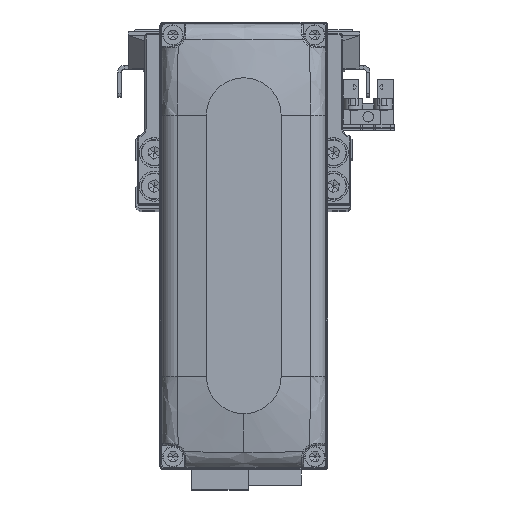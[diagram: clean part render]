
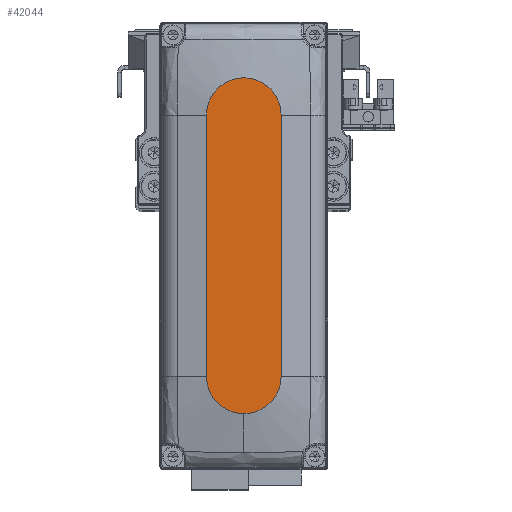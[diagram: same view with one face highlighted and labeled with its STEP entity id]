
A CAD part, top view. The second image highlights one B-rep face of the part: STEP entity #42044.
In plain terms, the highlighted planar face has unit normal (0, 0, 1).
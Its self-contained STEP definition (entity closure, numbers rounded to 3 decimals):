
#175 = PLANE ( 'NONE',  #27148 ) ;
#681 = ORIENTED_EDGE ( 'NONE', *, *, #20208, .T. ) ;
#1229 = CARTESIAN_POINT ( 'NONE',  ( -35., 10., 28. ) ) ;
#1949 = CARTESIAN_POINT ( 'NONE',  ( -35., -10., 28. ) ) ;
#2280 = CIRCLE ( 'NONE', #26103, 10. ) ;
#5046 = DIRECTION ( 'NONE',  ( 1., 0., 0. ) ) ;
#5385 = VERTEX_POINT ( 'NONE', #14078 ) ;
#5935 = DIRECTION ( 'NONE',  ( 0., 0., 1. ) ) ;
#6206 = DIRECTION ( 'NONE',  ( -1., 0., 0. ) ) ;
#7995 = ORIENTED_EDGE ( 'NONE', *, *, #14994, .T. ) ;
#8710 = DIRECTION ( 'NONE',  ( 0., 0., 1. ) ) ;
#8984 = VERTEX_POINT ( 'NONE', #11856 ) ;
#9556 = CIRCLE ( 'NONE', #33384, 10. ) ;
#9577 = EDGE_CURVE ( 'NONE', #8984, #15792, #22395, .T. ) ;
#11856 = CARTESIAN_POINT ( 'NONE',  ( 35., 10., 28. ) ) ;
#13207 = CARTESIAN_POINT ( 'NONE',  ( 0., 0., 28. ) ) ;
#14078 = CARTESIAN_POINT ( 'NONE',  ( -35., -10., 28. ) ) ;
#14497 = AXIS2_PLACEMENT_3D ( 'NONE', #21247, #34246, #5046 ) ;
#14686 = EDGE_LOOP ( 'NONE', ( #35928, #30717, #681, #29999, #7995 ) ) ;
#14973 = DIRECTION ( 'NONE',  ( 1., 0., 0. ) ) ;
#14994 = EDGE_CURVE ( 'NONE', #27832, #8984, #32864, .T. ) ;
#15696 = VECTOR ( 'NONE', #6206, 1000. ) ;
#15792 = VERTEX_POINT ( 'NONE', #1229 ) ;
#18954 = DIRECTION ( 'NONE',  ( 1., 0., 0. ) ) ;
#20208 = EDGE_CURVE ( 'NONE', #5385, #34883, #31162, .T. ) ;
#21247 = CARTESIAN_POINT ( 'NONE',  ( 35., 0., 28. ) ) ;
#21714 = DIRECTION ( 'NONE',  ( 1., 0., 0. ) ) ;
#22395 = LINE ( 'NONE', #35390, #15696 ) ;
#22898 = VECTOR ( 'NONE', #14973, 1000. ) ;
#26103 = AXIS2_PLACEMENT_3D ( 'NONE', #35137, #5935, #18954 ) ;
#26196 = DIRECTION ( 'NONE',  ( 0., 0., 1. ) ) ;
#26416 = EDGE_CURVE ( 'NONE', #15792, #5385, #2280, .T. ) ;
#27148 = AXIS2_PLACEMENT_3D ( 'NONE', #13207, #26196, #39181 ) ;
#27832 = VERTEX_POINT ( 'NONE', #37597 ) ;
#29380 = FACE_OUTER_BOUND ( 'NONE', #14686, .T. ) ;
#29999 = ORIENTED_EDGE ( 'NONE', *, *, #31339, .T. ) ;
#30426 = CARTESIAN_POINT ( 'NONE',  ( 35., -10., 28. ) ) ;
#30717 = ORIENTED_EDGE ( 'NONE', *, *, #26416, .T. ) ;
#31162 = LINE ( 'NONE', #1949, #22898 ) ;
#31339 = EDGE_CURVE ( 'NONE', #34883, #27832, #9556, .T. ) ;
#32864 = CIRCLE ( 'NONE', #14497, 10. ) ;
#33384 = AXIS2_PLACEMENT_3D ( 'NONE', #37919, #8710, #21714 ) ;
#34246 = DIRECTION ( 'NONE',  ( 0., 0., 1. ) ) ;
#34883 = VERTEX_POINT ( 'NONE', #30426 ) ;
#35137 = CARTESIAN_POINT ( 'NONE',  ( -35., 0., 28. ) ) ;
#35390 = CARTESIAN_POINT ( 'NONE',  ( -35., 10., 28. ) ) ;
#35928 = ORIENTED_EDGE ( 'NONE', *, *, #9577, .T. ) ;
#37597 = CARTESIAN_POINT ( 'NONE',  ( 45., 0., 28. ) ) ;
#37919 = CARTESIAN_POINT ( 'NONE',  ( 35., 0., 28. ) ) ;
#39181 = DIRECTION ( 'NONE',  ( 1., 0., 0. ) ) ;
#42044 = ADVANCED_FACE ( 'NONE', ( #29380 ), #175, .T. ) ;
